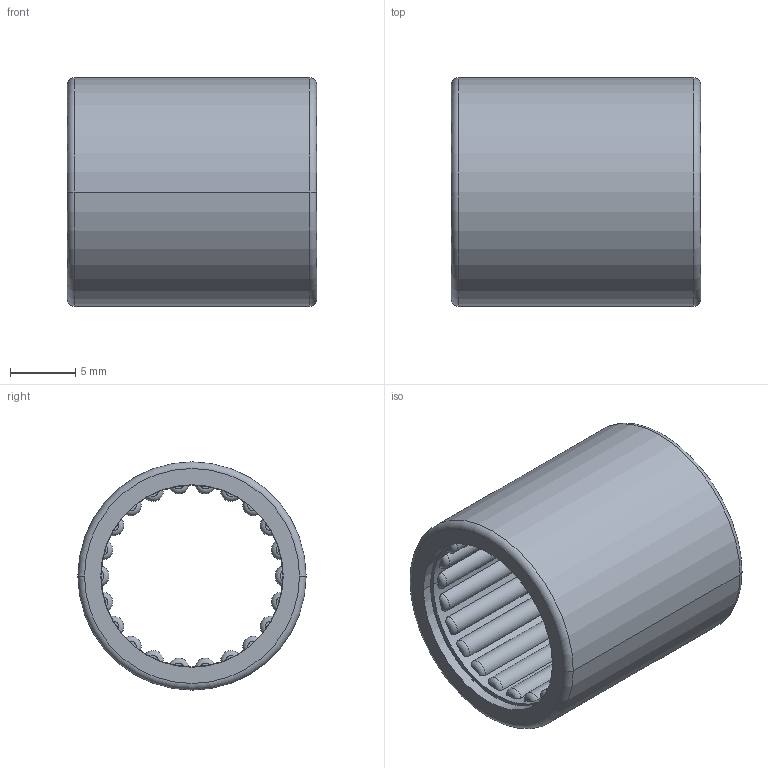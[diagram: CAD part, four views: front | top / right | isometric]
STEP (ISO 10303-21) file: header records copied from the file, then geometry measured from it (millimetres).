
FILE_DESCRIPTION((''),'2;1');
FILE_NAME('SCE812','2019-04-04T',('SYSTEM'),(''),'PRO/ENGINEER BY PARAMETRIC TECHNOLOGY CORPORATION, 2016360','PRO/ENGINEER BY PARAMETRIC TECHNOLOGY CORPORATION, 2016360','');
FILE_SCHEMA(('AUTOMOTIVE_DESIGN { 1 0 10303 214 1 1 1 1 }'));
Length unit declared in the file: inch
Products named in the file (1): SCE812
Bounding box: 19.05 x 17.45 x 17.45 mm (x, y, z)
Volume: 1624.2 mm3; surface area: 4187.5 mm2
Topology: 2 solids, 2 shells, 246 faces, 592 edges, 392 vertices
Faces by surface type: torus 96, plane 94, cylinder 56
Entity records: 10387 total; most frequent: CARTESIAN_POINT 2743, DIRECTION 1220, ORIENTED_EDGE 1184, PRESENTATION_STYLE_ASSIGNMENT 600, STYLED_ITEM 594, CURVE_STYLE 592, EDGE_CURVE 592, AXIS2_PLACEMENT_3D 558
